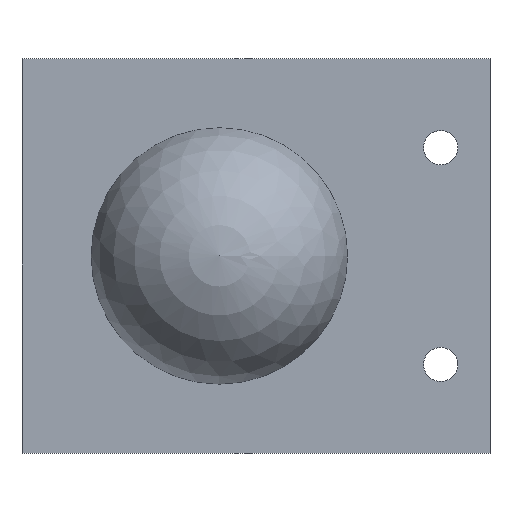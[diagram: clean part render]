
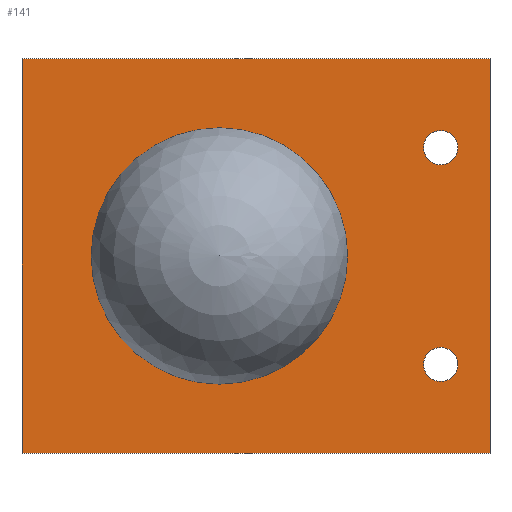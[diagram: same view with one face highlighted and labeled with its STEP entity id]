
A CAD part, top view. The second image highlights one B-rep face of the part: STEP entity #141.
In plain terms, the highlighted planar face has unit normal (0, 0, 1).
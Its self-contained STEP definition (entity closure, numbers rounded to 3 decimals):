
#69=CARTESIAN_POINT('',(3.25,0.,1.46));
#70=DIRECTION('',(0.,0.,1.));
#71=DIRECTION('',(1.,0.,0.));
#72=AXIS2_PLACEMENT_3D('',#69,#70,#71);
#73=PLANE('',#72);
#74=CARTESIAN_POINT('',(11.367,-0.,1.46));
#75=VERTEX_POINT('',#74);
#76=CARTESIAN_POINT('',(0.,0.,1.46));
#77=DIRECTION('',(0.,0.,1.));
#78=DIRECTION('',(1.,0.,-0.));
#79=AXIS2_PLACEMENT_3D('',#76,#77,#78);
#80=CIRCLE('',#79,11.367);
#81=EDGE_CURVE('',#75,#75,#80,.T.);
#82=ORIENTED_EDGE('',*,*,#81,.F.);
#83=EDGE_LOOP('',(#82));
#84=FACE_BOUND('',#83,.T.);
#85=CARTESIAN_POINT('',(21.14,9.6,1.46));
#86=VERTEX_POINT('',#85);
#87=CARTESIAN_POINT('',(19.625,9.6,1.46));
#88=DIRECTION('',(0.,0.,-1.));
#89=DIRECTION('',(1.,0.,0.));
#90=AXIS2_PLACEMENT_3D('',#87,#88,#89);
#91=CIRCLE('',#90,1.515);
#92=EDGE_CURVE('',#86,#86,#91,.T.);
#93=ORIENTED_EDGE('',*,*,#92,.T.);
#94=EDGE_LOOP('',(#93));
#95=FACE_BOUND('',#94,.T.);
#96=CARTESIAN_POINT('',(21.14,-9.62,1.46));
#97=VERTEX_POINT('',#96);
#98=CARTESIAN_POINT('',(19.625,-9.62,1.46));
#99=DIRECTION('',(0.,0.,-1.));
#100=DIRECTION('',(1.,0.,0.));
#101=AXIS2_PLACEMENT_3D('',#98,#99,#100);
#102=CIRCLE('',#101,1.515);
#103=EDGE_CURVE('',#97,#97,#102,.T.);
#104=ORIENTED_EDGE('',*,*,#103,.T.);
#105=EDGE_LOOP('',(#104));
#106=FACE_BOUND('',#105,.T.);
#107=CARTESIAN_POINT('',(24.,-17.5,1.46));
#108=VERTEX_POINT('',#107);
#109=CARTESIAN_POINT('',(-17.5,-17.5,1.46));
#110=VERTEX_POINT('',#109);
#111=CARTESIAN_POINT('',(24.,-17.5,1.46));
#112=DIRECTION('',(-1.,0.,0.));
#113=VECTOR('',#112,41.5);
#114=LINE('',#111,#113);
#115=EDGE_CURVE('',#108,#110,#114,.T.);
#116=ORIENTED_EDGE('',*,*,#115,.F.);
#117=CARTESIAN_POINT('',(24.,17.5,1.46));
#118=VERTEX_POINT('',#117);
#119=CARTESIAN_POINT('',(24.,17.5,1.46));
#120=DIRECTION('',(0.,-1.,0.));
#121=VECTOR('',#120,35.);
#122=LINE('',#119,#121);
#123=EDGE_CURVE('',#118,#108,#122,.T.);
#124=ORIENTED_EDGE('',*,*,#123,.F.);
#125=CARTESIAN_POINT('',(-17.5,17.5,1.46));
#126=VERTEX_POINT('',#125);
#127=CARTESIAN_POINT('',(-17.5,17.5,1.46));
#128=DIRECTION('',(1.,0.,-0.));
#129=VECTOR('',#128,41.5);
#130=LINE('',#127,#129);
#131=EDGE_CURVE('',#126,#118,#130,.T.);
#132=ORIENTED_EDGE('',*,*,#131,.F.);
#133=CARTESIAN_POINT('',(-17.5,-17.5,1.46));
#134=DIRECTION('',(0.,1.,0.));
#135=VECTOR('',#134,35.);
#136=LINE('',#133,#135);
#137=EDGE_CURVE('',#110,#126,#136,.T.);
#138=ORIENTED_EDGE('',*,*,#137,.F.);
#139=EDGE_LOOP('',(#116,#124,#132,#138));
#140=FACE_BOUND('',#139,.T.);
#141=ADVANCED_FACE('',(#84,#95,#106,#140),#73,.T.);
